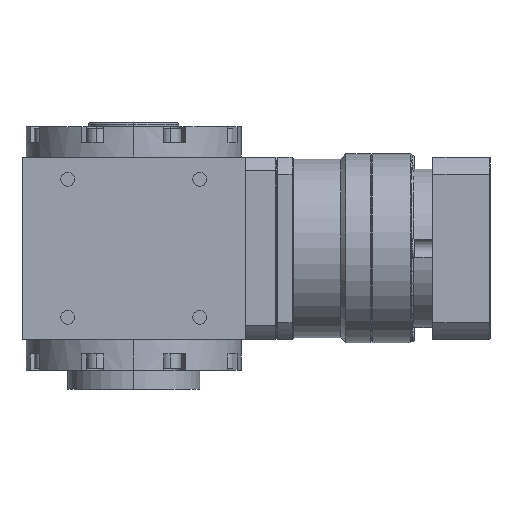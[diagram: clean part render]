
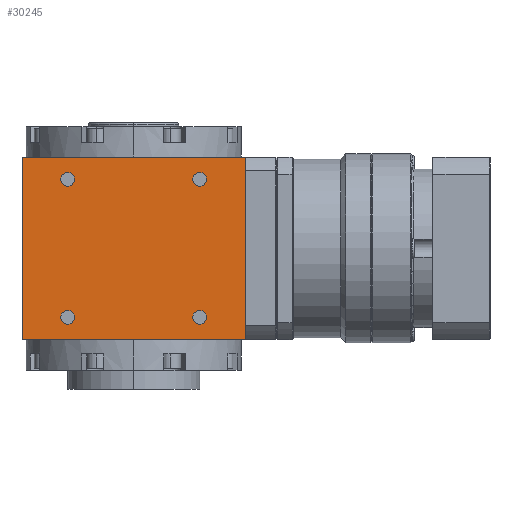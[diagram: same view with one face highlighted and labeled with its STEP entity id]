
A CAD part, left-side view. The second image highlights one B-rep face of the part: STEP entity #30245.
In plain terms, the highlighted planar face has unit normal (-1, 0, 0).
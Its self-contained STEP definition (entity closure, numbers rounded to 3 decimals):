
#877 = AXIS2_PLACEMENT_3D ( 'NONE', #1471, #24189, #16561 ) ;
#961 = CIRCLE ( 'NONE', #26367, 3.4 ) ;
#1471 = CARTESIAN_POINT ( 'NONE',  ( -55., -32.5, -34. ) ) ;
#1700 = FACE_BOUND ( 'NONE', #29383, .T. ) ;
#2023 = FACE_BOUND ( 'NONE', #25486, .T. ) ;
#2172 = EDGE_CURVE ( 'NONE', #31969, #20235, #22179, .T. ) ;
#2554 = VECTOR ( 'NONE', #14017, 1000. ) ;
#3569 = CIRCLE ( 'NONE', #15217, 3.4 ) ;
#3609 = LINE ( 'NONE', #3780, #24761 ) ;
#3780 = CARTESIAN_POINT ( 'NONE',  ( -55., 0., -45. ) ) ;
#3913 = VECTOR ( 'NONE', #4891, 1000. ) ;
#4065 = VERTEX_POINT ( 'NONE', #9587 ) ;
#4788 = ORIENTED_EDGE ( 'NONE', *, *, #9412, .F. ) ;
#4873 = CARTESIAN_POINT ( 'NONE',  ( -55., -35.9, -34. ) ) ;
#4884 = ORIENTED_EDGE ( 'NONE', *, *, #14146, .T. ) ;
#4891 = DIRECTION ( 'NONE',  ( 0., -1., 0. ) ) ;
#5414 = ORIENTED_EDGE ( 'NONE', *, *, #16506, .F. ) ;
#5584 = DIRECTION ( 'NONE',  ( 0., -1., 0. ) ) ;
#5900 = CARTESIAN_POINT ( 'NONE',  ( -55., -29.1, -34. ) ) ;
#6246 = EDGE_CURVE ( 'NONE', #9948, #19685, #3569, .T. ) ;
#6510 = EDGE_CURVE ( 'NONE', #11725, #15725, #3609, .T. ) ;
#6792 = DIRECTION ( 'NONE',  ( 1., 0., 0. ) ) ;
#6845 = FACE_BOUND ( 'NONE', #29306, .T. ) ;
#7308 = CARTESIAN_POINT ( 'NONE',  ( -55., 55., -45. ) ) ;
#7405 = CIRCLE ( 'NONE', #18023, 3.4 ) ;
#8233 = DIRECTION ( 'NONE',  ( 1., 0., 0. ) ) ;
#8728 = DIRECTION ( 'NONE',  ( 0., -1., 0. ) ) ;
#9284 = CIRCLE ( 'NONE', #25709, 3.4 ) ;
#9412 = EDGE_CURVE ( 'NONE', #31615, #15725, #13293, .T. ) ;
#9587 = CARTESIAN_POINT ( 'NONE',  ( -55., 35.9, -34. ) ) ;
#9797 = DIRECTION ( 'NONE',  ( 1., 0., 0. ) ) ;
#9948 = VERTEX_POINT ( 'NONE', #13905 ) ;
#10202 = LINE ( 'NONE', #24981, #3913 ) ;
#10209 = EDGE_LOOP ( 'NONE', ( #5414, #12578, #4788, #28710 ) ) ;
#11231 = CARTESIAN_POINT ( 'NONE',  ( -55., 32.5, -34. ) ) ;
#11718 = DIRECTION ( 'NONE',  ( 0., -1., 0. ) ) ;
#11725 = VERTEX_POINT ( 'NONE', #29045 ) ;
#11876 = CARTESIAN_POINT ( 'NONE',  ( -55., -55., 45. ) ) ;
#11996 = CARTESIAN_POINT ( 'NONE',  ( -55., 29.1, -34. ) ) ;
#12155 = CARTESIAN_POINT ( 'NONE',  ( -55., -32.5, 34. ) ) ;
#12578 = ORIENTED_EDGE ( 'NONE', *, *, #6510, .T. ) ;
#13293 = LINE ( 'NONE', #28240, #23111 ) ;
#13905 = CARTESIAN_POINT ( 'NONE',  ( -55., -29.1, 34. ) ) ;
#14017 = DIRECTION ( 'NONE',  ( 0., 0., 1. ) ) ;
#14146 = EDGE_CURVE ( 'NONE', #4065, #25323, #21654, .T. ) ;
#14270 = ORIENTED_EDGE ( 'NONE', *, *, #16198, .T. ) ;
#14283 = CIRCLE ( 'NONE', #15865, 3.4 ) ;
#14990 = ORIENTED_EDGE ( 'NONE', *, *, #2172, .T. ) ;
#15111 = ORIENTED_EDGE ( 'NONE', *, *, #31023, .T. ) ;
#15217 = AXIS2_PLACEMENT_3D ( 'NONE', #24325, #32134, #11718 ) ;
#15725 = VERTEX_POINT ( 'NONE', #26136 ) ;
#15865 = AXIS2_PLACEMENT_3D ( 'NONE', #18530, #21195, #28814 ) ;
#15963 = CARTESIAN_POINT ( 'NONE',  ( -55., 29.1, 34. ) ) ;
#16198 = EDGE_CURVE ( 'NONE', #25323, #4065, #961, .T. ) ;
#16506 = EDGE_CURVE ( 'NONE', #11725, #29914, #26636, .T. ) ;
#16561 = DIRECTION ( 'NONE',  ( 0., -1., 0. ) ) ;
#16666 = CARTESIAN_POINT ( 'NONE',  ( -55., 55., -45. ) ) ;
#16966 = FACE_OUTER_BOUND ( 'NONE', #10209, .T. ) ;
#17448 = DIRECTION ( 'NONE',  ( 0., -1., 0. ) ) ;
#18023 = AXIS2_PLACEMENT_3D ( 'NONE', #12155, #9797, #27099 ) ;
#18478 = AXIS2_PLACEMENT_3D ( 'NONE', #11231, #21362, #8728 ) ;
#18530 = CARTESIAN_POINT ( 'NONE',  ( -55., 32.5, 34. ) ) ;
#19399 = CARTESIAN_POINT ( 'NONE',  ( -55., 32.5, -34. ) ) ;
#19685 = VERTEX_POINT ( 'NONE', #22812 ) ;
#19787 = EDGE_LOOP ( 'NONE', ( #31403, #22989 ) ) ;
#19853 = ORIENTED_EDGE ( 'NONE', *, *, #24209, .T. ) ;
#19971 = CARTESIAN_POINT ( 'NONE',  ( -55., 55., 45. ) ) ;
#20217 = DIRECTION ( 'NONE',  ( 0., -1., 0. ) ) ;
#20235 = VERTEX_POINT ( 'NONE', #15963 ) ;
#20526 = CARTESIAN_POINT ( 'NONE',  ( -55., 32.5, 34. ) ) ;
#21195 = DIRECTION ( 'NONE',  ( 1., 0., 0. ) ) ;
#21362 = DIRECTION ( 'NONE',  ( 1., 0., 0. ) ) ;
#21654 = CIRCLE ( 'NONE', #18478, 3.4 ) ;
#22179 = CIRCLE ( 'NONE', #27475, 3.4 ) ;
#22377 = VERTEX_POINT ( 'NONE', #4873 ) ;
#22700 = CARTESIAN_POINT ( 'NONE',  ( -55., -32.5, -34. ) ) ;
#22812 = CARTESIAN_POINT ( 'NONE',  ( -55., -35.9, 34. ) ) ;
#22989 = ORIENTED_EDGE ( 'NONE', *, *, #6246, .T. ) ;
#23111 = VECTOR ( 'NONE', #23418, 1000. ) ;
#23184 = DIRECTION ( 'NONE',  ( 1., 0., 0. ) ) ;
#23418 = DIRECTION ( 'NONE',  ( 0., 0., -1. ) ) ;
#24189 = DIRECTION ( 'NONE',  ( 1., 0., 0. ) ) ;
#24209 = EDGE_CURVE ( 'NONE', #20235, #31969, #14283, .T. ) ;
#24325 = CARTESIAN_POINT ( 'NONE',  ( -55., -32.5, 34. ) ) ;
#24752 = PLANE ( 'NONE',  #31322 ) ;
#24761 = VECTOR ( 'NONE', #27019, 1000. ) ;
#24981 = CARTESIAN_POINT ( 'NONE',  ( -55., 0., 45. ) ) ;
#25323 = VERTEX_POINT ( 'NONE', #11996 ) ;
#25486 = EDGE_LOOP ( 'NONE', ( #19853, #14990 ) ) ;
#25709 = AXIS2_PLACEMENT_3D ( 'NONE', #22700, #23184, #20217 ) ;
#26136 = CARTESIAN_POINT ( 'NONE',  ( -55., -55., -45. ) ) ;
#26367 = AXIS2_PLACEMENT_3D ( 'NONE', #19399, #6792, #27531 ) ;
#26636 = LINE ( 'NONE', #16666, #2554 ) ;
#27019 = DIRECTION ( 'NONE',  ( 0., -1., 0. ) ) ;
#27099 = DIRECTION ( 'NONE',  ( 0., -1., 0. ) ) ;
#27243 = FACE_BOUND ( 'NONE', #19787, .T. ) ;
#27475 = AXIS2_PLACEMENT_3D ( 'NONE', #20526, #8233, #5584 ) ;
#27531 = DIRECTION ( 'NONE',  ( 0., -1., 0. ) ) ;
#27897 = VERTEX_POINT ( 'NONE', #5900 ) ;
#28240 = CARTESIAN_POINT ( 'NONE',  ( -55., -55., -45. ) ) ;
#28710 = ORIENTED_EDGE ( 'NONE', *, *, #31779, .F. ) ;
#28814 = DIRECTION ( 'NONE',  ( 0., -1., 0. ) ) ;
#29045 = CARTESIAN_POINT ( 'NONE',  ( -55., 55., -45. ) ) ;
#29306 = EDGE_LOOP ( 'NONE', ( #32248, #15111 ) ) ;
#29383 = EDGE_LOOP ( 'NONE', ( #14270, #4884 ) ) ;
#29568 = CARTESIAN_POINT ( 'NONE',  ( -55., 35.9, 34. ) ) ;
#29914 = VERTEX_POINT ( 'NONE', #19971 ) ;
#30245 = ADVANCED_FACE ( 'NONE', ( #16966, #2023, #1700, #6845, #27243 ), #24752, .T. ) ;
#30249 = EDGE_CURVE ( 'NONE', #19685, #9948, #7405, .T. ) ;
#31023 = EDGE_CURVE ( 'NONE', #27897, #22377, #31107, .T. ) ;
#31107 = CIRCLE ( 'NONE', #877, 3.4 ) ;
#31322 = AXIS2_PLACEMENT_3D ( 'NONE', #7308, #32569, #17448 ) ;
#31403 = ORIENTED_EDGE ( 'NONE', *, *, #30249, .T. ) ;
#31615 = VERTEX_POINT ( 'NONE', #11876 ) ;
#31779 = EDGE_CURVE ( 'NONE', #29914, #31615, #10202, .T. ) ;
#31969 = VERTEX_POINT ( 'NONE', #29568 ) ;
#32134 = DIRECTION ( 'NONE',  ( 1., 0., 0. ) ) ;
#32248 = ORIENTED_EDGE ( 'NONE', *, *, #32630, .T. ) ;
#32569 = DIRECTION ( 'NONE',  ( -1., 0., 0. ) ) ;
#32630 = EDGE_CURVE ( 'NONE', #22377, #27897, #9284, .T. ) ;
